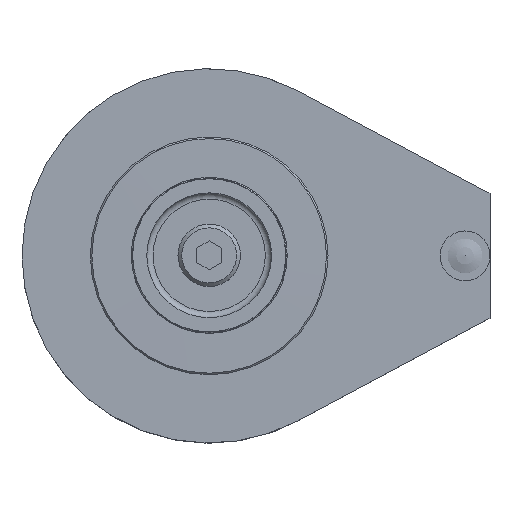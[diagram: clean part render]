
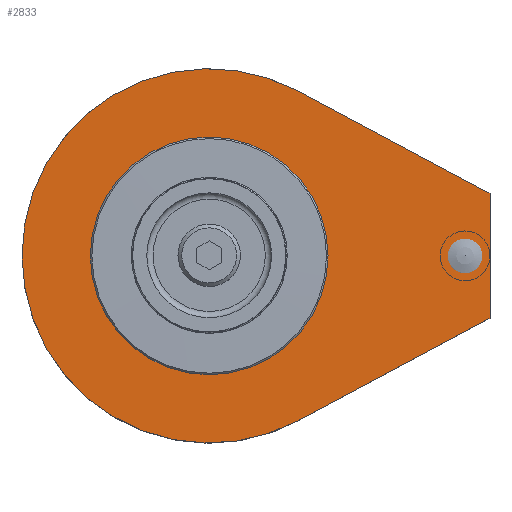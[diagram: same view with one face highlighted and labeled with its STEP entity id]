
A CAD part, top view. The second image highlights one B-rep face of the part: STEP entity #2833.
In plain terms, the highlighted planar face has unit normal (0, 0, 1).
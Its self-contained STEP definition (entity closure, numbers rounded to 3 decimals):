
#2445=PLANE('',#6394);
#2579=CIRCLE('',#6393,30.);
#2833=ADVANCED_FACE('AC_MATE1',(#3143),#2445,.F.);
#3143=FACE_OUTER_BOUND('',#3501,.T.);
#3501=EDGE_LOOP('',(#4865,#4866,#4867,#4868));
#3707=LINE('',#9486,#3877);
#3708=LINE('',#9489,#3878);
#3709=LINE('',#9491,#3879);
#3877=VECTOR('',#7341,1.);
#3878=VECTOR('',#7342,1.);
#3879=VECTOR('',#7343,1.);
#4865=ORIENTED_EDGE('',*,*,#5799,.F.);
#4866=ORIENTED_EDGE('',*,*,#5800,.F.);
#4867=ORIENTED_EDGE('',*,*,#5801,.T.);
#4868=ORIENTED_EDGE('',*,*,#5802,.T.);
#5282=VERTEX_POINT('',#9487);
#5283=VERTEX_POINT('',#9488);
#5284=VERTEX_POINT('',#9490);
#5285=VERTEX_POINT('',#9492);
#5799=EDGE_CURVE('',#5282,#5283,#3707,.T.);
#5800=EDGE_CURVE('',#5284,#5282,#3708,.T.);
#5801=EDGE_CURVE('',#5284,#5285,#3709,.T.);
#5802=EDGE_CURVE('',#5285,#5283,#2579,.T.);
#6393=AXIS2_PLACEMENT_3D('',#9493,#7344,#7345);
#6394=AXIS2_PLACEMENT_3D('',#9494,#7346,#7347);
#7341=DIRECTION('',(0.471,-0.882,0.));
#7342=DIRECTION('',(1.,0.,0.));
#7343=DIRECTION('',(-0.471,-0.882,0.));
#7344=DIRECTION('',(0.,0.,1.));
#7345=DIRECTION('',(1.,0.,0.));
#7346=DIRECTION('',(0.,0.,-1.));
#7347=DIRECTION('',(-1.,0.,0.));
#9486=CARTESIAN_POINT('',(10.,0.,4.763));
#9487=CARTESIAN_POINT('',(10.,0.,4.763));
#9488=CARTESIAN_POINT('',(26.471,-30.882,4.763));
#9489=CARTESIAN_POINT('',(0.,0.,4.763));
#9490=CARTESIAN_POINT('',(-10.,0.,4.763));
#9491=CARTESIAN_POINT('',(-10.,0.,4.763));
#9492=CARTESIAN_POINT('',(-26.471,-30.882,4.763));
#9493=CARTESIAN_POINT('',(0.,-45.,4.763));
#9494=CARTESIAN_POINT('',(0.,-45.,4.763));
